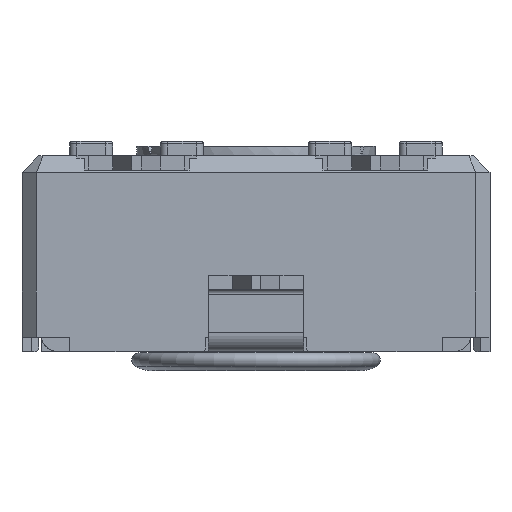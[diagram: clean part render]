
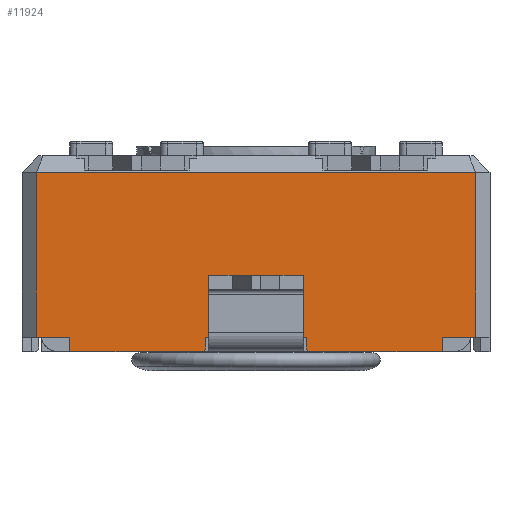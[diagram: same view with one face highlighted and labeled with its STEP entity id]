
A CAD part, front view. The second image highlights one B-rep face of the part: STEP entity #11924.
In plain terms, the highlighted planar face has unit normal (0, -1, 0).
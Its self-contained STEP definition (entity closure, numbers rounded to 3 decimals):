
#1031=FACE_OUTER_BOUND('',#1641,.T.);
#1641=EDGE_LOOP('',(#10523,#10524,#10525,#10526,#10527,#10528,#10529,#10530,
#10531,#10532,#10533,#10534,#10535,#10536,#10537,#10538));
#1710=LINE('',#16114,#3106);
#2319=LINE('',#17575,#3715);
#2325=LINE('',#17587,#3721);
#2333=LINE('',#17603,#3729);
#2339=LINE('',#17614,#3735);
#2503=LINE('',#18135,#3899);
#2509=LINE('',#18145,#3905);
#2512=LINE('',#18152,#3908);
#2525=LINE('',#18177,#3921);
#2581=LINE('',#18285,#3977);
#2583=LINE('',#18290,#3979);
#2585=LINE('',#18293,#3981);
#2587=LINE('',#18298,#3983);
#2777=LINE('',#18757,#4173);
#3020=LINE('',#19318,#4416);
#3022=LINE('',#19325,#4418);
#3106=VECTOR('',#12944,10.);
#3715=VECTOR('',#14233,10.);
#3721=VECTOR('',#14239,10.);
#3729=VECTOR('',#14249,10.);
#3735=VECTOR('',#14255,10.);
#3899=VECTOR('',#14727,10.);
#3905=VECTOR('',#14735,10.);
#3908=VECTOR('',#14742,10.);
#3921=VECTOR('',#14763,10.);
#3977=VECTOR('',#14863,10.);
#3979=VECTOR('',#14871,10.);
#3981=VECTOR('',#14875,10.);
#3983=VECTOR('',#14883,10.);
#4173=VECTOR('',#15321,10.);
#4416=VECTOR('',#15860,10.);
#4418=VECTOR('',#15872,10.);
#4482=VERTEX_POINT('',#16066);
#4495=VERTEX_POINT('',#16113);
#5007=VERTEX_POINT('',#17574);
#5012=VERTEX_POINT('',#17584);
#5013=VERTEX_POINT('',#17586);
#5019=VERTEX_POINT('',#17600);
#5020=VERTEX_POINT('',#17602);
#5025=VERTEX_POINT('',#17612);
#5173=VERTEX_POINT('',#18133);
#5174=VERTEX_POINT('',#18134);
#5177=VERTEX_POINT('',#18143);
#5178=VERTEX_POINT('',#18150);
#5179=VERTEX_POINT('',#18151);
#5187=VERTEX_POINT('',#18176);
#5337=VERTEX_POINT('',#18754);
#5338=VERTEX_POINT('',#18756);
#5604=EDGE_CURVE('',#4495,#4482,#1710,.T.);
#6339=EDGE_CURVE('',#5007,#4495,#2319,.T.);
#6345=EDGE_CURVE('',#5013,#5012,#2325,.T.);
#6353=EDGE_CURVE('',#5020,#5019,#2333,.T.);
#6359=EDGE_CURVE('',#4482,#5025,#2339,.T.);
#6601=EDGE_CURVE('',#5173,#5174,#2503,.T.);
#6607=EDGE_CURVE('',#5173,#5177,#2509,.T.);
#6610=EDGE_CURVE('',#5178,#5179,#2512,.T.);
#6623=EDGE_CURVE('',#5187,#5179,#2525,.T.);
#6679=EDGE_CURVE('',#5007,#5178,#2581,.T.);
#6681=EDGE_CURVE('',#5012,#5187,#2583,.T.);
#6683=EDGE_CURVE('',#5020,#5177,#2585,.T.);
#6685=EDGE_CURVE('',#5025,#5174,#2587,.T.);
#6912=EDGE_CURVE('',#5337,#5338,#2777,.T.);
#7191=EDGE_CURVE('',#5338,#5019,#3020,.T.);
#7193=EDGE_CURVE('',#5337,#5013,#3022,.T.);
#10523=ORIENTED_EDGE('',*,*,#6601,.F.);
#10524=ORIENTED_EDGE('',*,*,#6607,.T.);
#10525=ORIENTED_EDGE('',*,*,#6683,.F.);
#10526=ORIENTED_EDGE('',*,*,#6353,.T.);
#10527=ORIENTED_EDGE('',*,*,#7191,.F.);
#10528=ORIENTED_EDGE('',*,*,#6912,.F.);
#10529=ORIENTED_EDGE('',*,*,#7193,.T.);
#10530=ORIENTED_EDGE('',*,*,#6345,.T.);
#10531=ORIENTED_EDGE('',*,*,#6681,.T.);
#10532=ORIENTED_EDGE('',*,*,#6623,.T.);
#10533=ORIENTED_EDGE('',*,*,#6610,.F.);
#10534=ORIENTED_EDGE('',*,*,#6679,.F.);
#10535=ORIENTED_EDGE('',*,*,#6339,.T.);
#10536=ORIENTED_EDGE('',*,*,#5604,.T.);
#10537=ORIENTED_EDGE('',*,*,#6359,.T.);
#10538=ORIENTED_EDGE('',*,*,#6685,.T.);
#11133=PLANE('',#12802);
#11924=ADVANCED_FACE('',(#1031),#11133,.T.);
#12802=AXIS2_PLACEMENT_3D('',#19326,#15873,#15874);
#12944=DIRECTION('',(1.,0.,0.));
#14233=DIRECTION('',(1.,0.,0.));
#14239=DIRECTION('',(1.,0.,0.));
#14249=DIRECTION('',(1.,0.,0.));
#14255=DIRECTION('',(1.,0.,0.));
#14727=DIRECTION('',(-0.707,0.,0.707));
#14735=DIRECTION('',(1.,0.,0.));
#14742=DIRECTION('',(-0.707,0.,-0.707));
#14763=DIRECTION('',(1.,0.,0.));
#14863=DIRECTION('',(0.,0.,-1.));
#14871=DIRECTION('',(0.,0.,-1.));
#14875=DIRECTION('',(0.,0.,-1.));
#14883=DIRECTION('',(0.,0.,-1.));
#15321=DIRECTION('',(1.,0.,0.));
#15860=DIRECTION('',(0.,0.,-1.));
#15872=DIRECTION('',(0.,0.,-1.));
#15873=DIRECTION('center_axis',(0.,-1.,0.));
#15874=DIRECTION('ref_axis',(0.,0.,-1.));
#16066=CARTESIAN_POINT('',(-25.448,-17.99,-3.8));
#16113=CARTESIAN_POINT('',(-27.448,-17.99,-3.8));
#16114=CARTESIAN_POINT('',(-21.848,-17.99,-3.8));
#17574=CARTESIAN_POINT('',(-27.498,-17.99,-3.8));
#17575=CARTESIAN_POINT('',(-21.848,-17.99,-3.8));
#17584=CARTESIAN_POINT('',(-30.348,-17.99,-3.8));
#17586=CARTESIAN_POINT('',(-31.048,-17.99,-3.8));
#17587=CARTESIAN_POINT('',(-21.848,-17.99,-3.8));
#17600=CARTESIAN_POINT('',(-21.848,-17.99,-3.8));
#17602=CARTESIAN_POINT('',(-22.548,-17.99,-3.8));
#17603=CARTESIAN_POINT('',(-21.848,-17.99,-3.8));
#17612=CARTESIAN_POINT('',(-25.398,-17.99,-3.8));
#17614=CARTESIAN_POINT('',(-21.848,-17.99,-3.8));
#18133=CARTESIAN_POINT('',(-25.348,-17.99,-4.1));
#18134=CARTESIAN_POINT('',(-25.398,-17.99,-4.05));
#18135=CARTESIAN_POINT('',(-27.81,-17.99,-1.637));
#18143=CARTESIAN_POINT('',(-22.548,-17.99,-4.1));
#18145=CARTESIAN_POINT('',(-21.848,-17.99,-4.1));
#18150=CARTESIAN_POINT('',(-27.498,-17.99,-4.05));
#18151=CARTESIAN_POINT('',(-27.548,-17.99,-4.1));
#18152=CARTESIAN_POINT('',(-27.385,-17.99,-3.938));
#18176=CARTESIAN_POINT('',(-30.348,-17.99,-4.1));
#18177=CARTESIAN_POINT('',(-21.848,-17.99,-4.1));
#18285=CARTESIAN_POINT('',(-27.498,-17.99,-3.8));
#18290=CARTESIAN_POINT('',(-30.348,-17.99,-3.8));
#18293=CARTESIAN_POINT('',(-22.548,-17.99,-3.8));
#18298=CARTESIAN_POINT('',(-25.398,-17.99,-3.8));
#18754=CARTESIAN_POINT('',(-31.048,-17.99,-0.35));
#18756=CARTESIAN_POINT('',(-21.848,-17.99,-0.35));
#18757=CARTESIAN_POINT('',(-28.748,-17.99,-0.35));
#19318=CARTESIAN_POINT('',(-21.848,-17.99,0.));
#19325=CARTESIAN_POINT('',(-31.048,-17.99,0.));
#19326=CARTESIAN_POINT('Origin',(-31.048,-17.99,0.));
